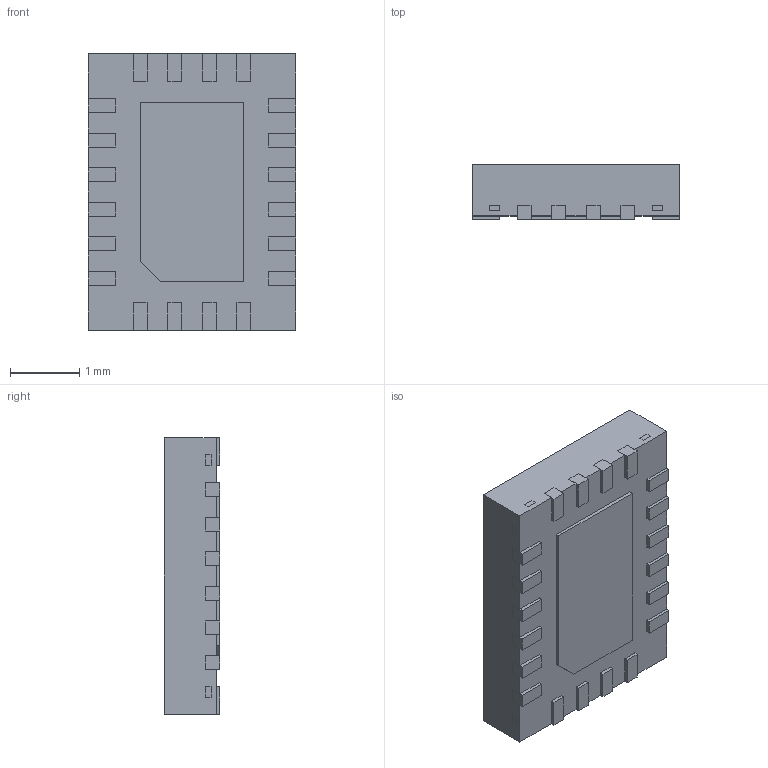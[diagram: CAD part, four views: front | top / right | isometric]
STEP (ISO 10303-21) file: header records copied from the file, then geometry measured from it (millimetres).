
FILE_DESCRIPTION (( 'STEP AP214' ), '1' );
FILE_NAME ('TPS25944ARVCR.STEP', '2023-12-15T12:33:14', ( 'LENOVO' ), ( '' ), 'SwSTEP 2.0', 'SolidWorks 2021', '' );
FILE_SCHEMA (( 'AUTOMOTIVE_DESIGN' ));
Length unit declared in the file: millimetre
Products named in the file (1): TPS25944ARVCR
Bounding box: 3 x 0.8 x 4 mm (x, y, z)
Volume: 9.3 mm3; surface area: 56.6 mm2
Topology: 31 solids, 31 shells, 314 faces, 726 edges, 484 vertices
Faces by surface type: plane 310, cylinder 4
Entity records: 9330 total; most frequent: CARTESIAN_POINT 1525, ORIENTED_EDGE 1452, DIRECTION 1364, EDGE_CURVE 726, LINE 718, VECTOR 718, VERTEX_POINT 484, EDGE_LOOP 324
